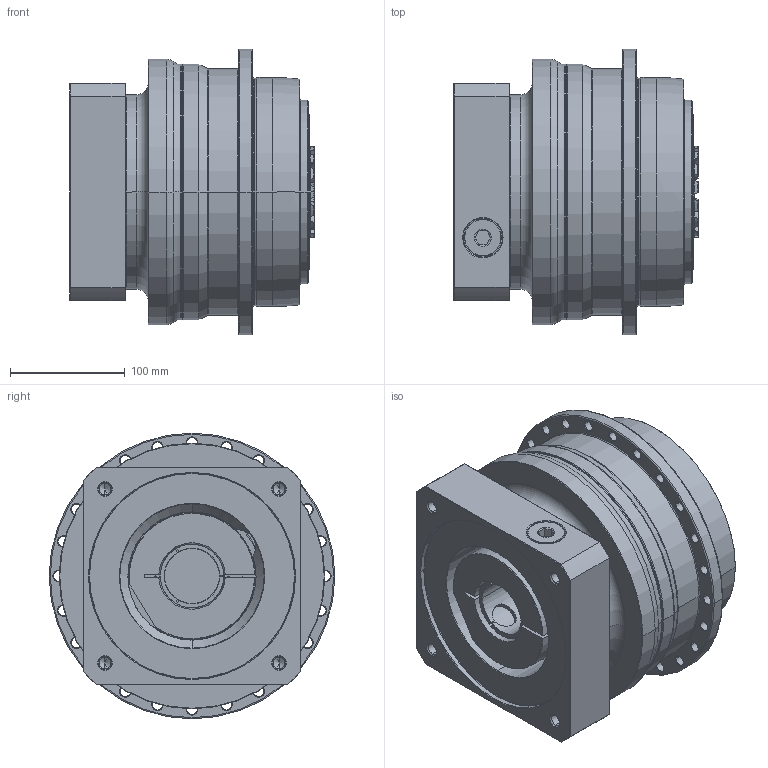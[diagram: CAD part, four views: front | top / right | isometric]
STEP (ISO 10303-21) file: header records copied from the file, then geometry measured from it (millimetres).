
FILE_DESCRIPTION((''),'2;1');
FILE_NAME('APC200_1ST_48-P0409B10201_ASM','2018-06-12T',('d01226'),(''),'PRO/ENGINEER BY PARAMETRIC TECHNOLOGY CORPORATION, 2008410','PRO/ENGINEER BY PARAMETRIC TECHNOLOGY CORPORATION, 2008410','');
FILE_SCHEMA(('CONFIG_CONTROL_DESIGN'));
Length unit declared in the file: millimetre
Products named in the file (9): P0278601003; P0359660103; P1318610401; P0503B00016; P0912654001; P1211600001; P0409B10201; 21711426021; APC200_1ST_48-P0409B10201_ASM
Assembly tree (8 placements, depth 2):
  APC200_1ST_48-P0409B10201_ASM
    P0278601003
    P0359660103
    P1318610401
    P0503B00016
    P0912654001
    P1211600001
    P0409B10201
    21711426021
Bounding box: 213.6 x 249.5 x 249.5 mm (x, y, z)
Volume: 7248970.5 mm3; surface area: 659421.3 mm2
Topology: 9 solids, 20 shells, 672 faces, 1615 edges, 983 vertices
Faces by surface type: cone 222, cylinder 213, plane 121, torus 102, bspline 14
Entity records: 25017 total; most frequent: CARTESIAN_POINT 8943, DIRECTION 3599, ORIENTED_EDGE 3152, EDGE_CURVE 1597, AXIS2_PLACEMENT_3D 1561, VERTEX_POINT 983, CIRCLE 876, EDGE_LOOP 774
